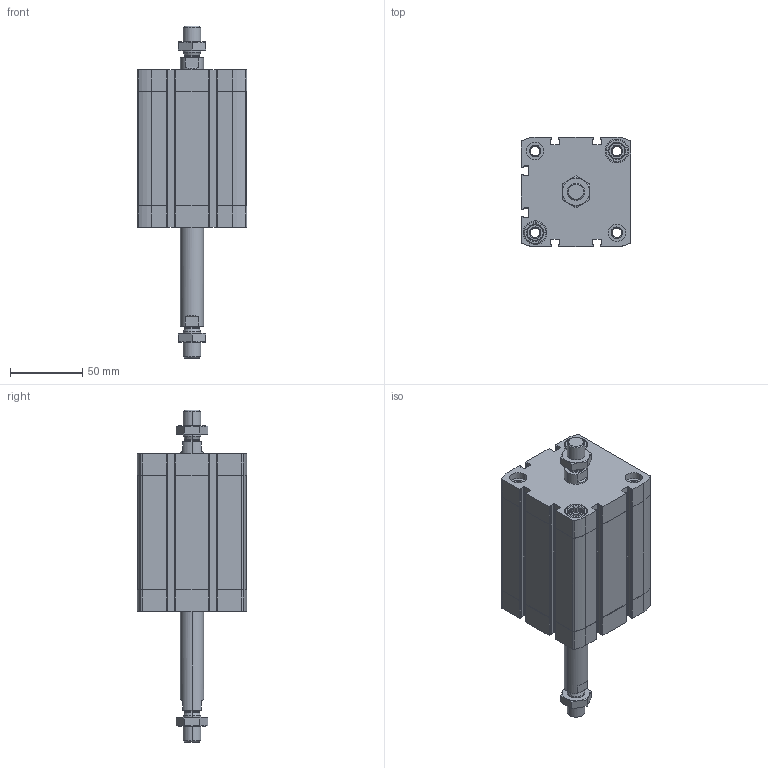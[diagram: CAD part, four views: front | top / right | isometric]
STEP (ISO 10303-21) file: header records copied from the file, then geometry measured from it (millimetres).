
FILE_DESCRIPTION (( 'STEP AP203' ), '1' );
FILE_NAME ('CCN63-60-P.STEP', '2020-06-22T19:03:03', ( '' ), ( '' ), 'SwSTEP 2.0', 'SolidWorks 2019', '' );
FILE_SCHEMA (( 'CONFIG_CONTROL_DESIGN' ));
Length unit declared in the file: millimetre
Products named in the file (1): CCN63-60-P
Bounding box: 75.5 x 75.5 x 229.4 mm (x, y, z)
Volume: 417781.3 mm3; surface area: 107687.9 mm2
Topology: 4 solids, 4 shells, 528 faces, 1392 edges, 904 vertices
Faces by surface type: plane 240, cylinder 220, cone 60, torus 8
Entity records: 17219 total; most frequent: CARTESIAN_POINT 3821, DIRECTION 2842, ORIENTED_EDGE 2784, EDGE_CURVE 1392, AXIS2_PLACEMENT_3D 1045, VERTEX_POINT 904, LINE 752, VECTOR 752
